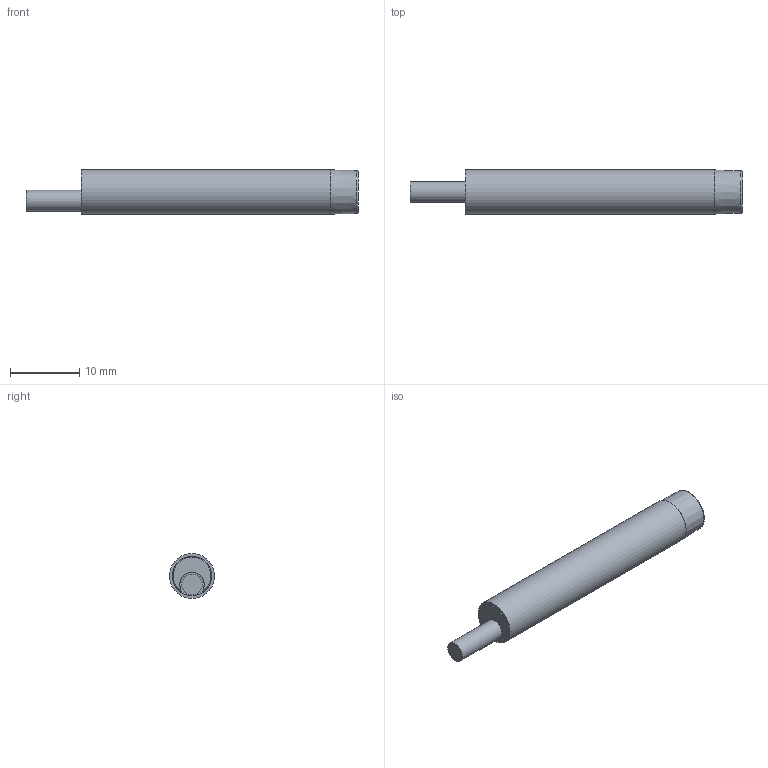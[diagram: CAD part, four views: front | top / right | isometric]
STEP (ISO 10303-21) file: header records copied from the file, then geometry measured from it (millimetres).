
FILE_DESCRIPTION( ( 'Unknown' ), '1' );
FILE_NAME( '//baumerholding.org/frauenfeld/bereich/BECH/Services/me_CAD/Solid Edge/Models/Dokumentationen/Induktiv/IxRx 06/Vereinfachte Modelle/Neutralformate/IFRM 06xx3G1_L.stp', 'Unknown', ( 'Unknown' ), ( 'Unknown' ), 'XStep 1.0', 'Unknown', ' ' );
FILE_SCHEMA( ( 'CONFIG_CONTROL_DESIGN' ) );
Length unit declared in the file: millimetre
Products named in the file (1): 148593
Bounding box: 48 x 6.5 x 6.5 mm (x, y, z)
Volume: 1375.1 mm3; surface area: 956.3 mm2
Topology: 1 solids, 1 shells, 17 faces, 35 edges, 24 vertices
Faces by surface type: plane 10, cone 3, cylinder 3, torus 1
Full cylindrical faces by diameter (mm): 3 x1, 5.7 x1, 6.5 x1
Entity records: 456 total; most frequent: CARTESIAN_POINT 84, DIRECTION 70, ORIENTED_EDGE 54, AXIS2_PLACEMENT_3D 31, EDGE_CURVE 27, EDGE_LOOP 26, FACE_OUTER_BOUND 21, VERTEX_POINT 21
